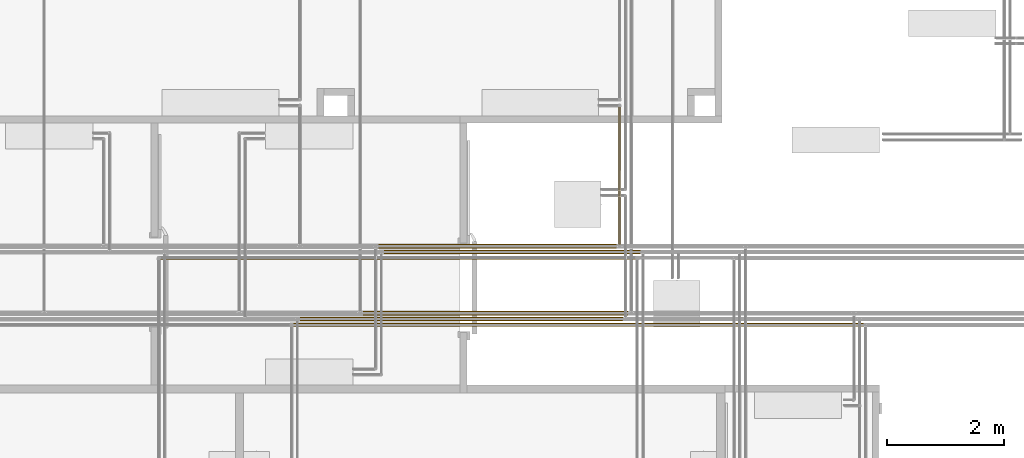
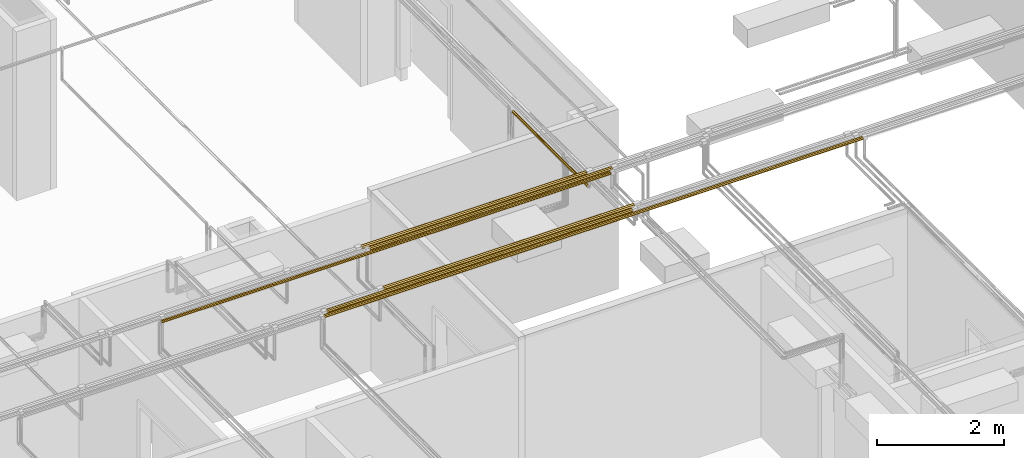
# One storey, part 94 of 652: 7 coverings.
"""IFC2X3 building model written with IfcOpenShell, lengths in millimetres."""

import ifcopenshell
import ifcopenshell.guid

model = None  # the IFC model being written
_history = None  # IfcOwnerHistory: only IFC2X3 demands one
_inside = {}  # id of a spatial element -> (the spatial element, [elements in it])
_under = {}  # id of a project, library or spatial element -> (it, [spatial elements below it])
_declared = {}  # id of a project -> (the project, [libraries it declares])
_typed = {}  # id of a type object -> (the type object, [elements of that type])
_made_of = {}  # id of a material, layer set ... -> (it, [elements and type objects made of it])


def new_model(schema):
    """Start an empty IFC model of exactly this schema.

    Asked for "IFC4X3", IfcOpenShell would pick the latest addendum, in which some entities
    have other attributes; the version numbers below select the first issue.
    IFC2X3 requires an IfcOwnerHistory on every rooted entity: one is made here for all.
    """
    global model, _history
    if schema == "IFC4X3":
        model = ifcopenshell.file(schema_version=(4, 3, 0, 0))
    else:
        model = ifcopenshell.file(schema=schema)
    _inside.clear()
    _under.clear()
    _declared.clear()
    _typed.clear()
    _made_of.clear()
    _history = None
    if model.schema == "IFC2X3":
        org = make("IfcOrganization", Name="unknown")
        user = make(
            "IfcPersonAndOrganization",
            ThePerson=make("IfcPerson", FamilyName="unknown"),
            TheOrganization=org,
        )
        app = make(
            "IfcApplication",
            ApplicationDeveloper=org,
            Version="unknown",
            ApplicationFullName="unknown",
            ApplicationIdentifier="unknown",
        )
        _history = make(
            "IfcOwnerHistory",
            OwningUser=user,
            OwningApplication=app,
            ChangeAction="ADDED",
            CreationDate=0,
        )
    return model


def make(cls, **values):
    """One entity of the class cls with the attributes given. An attribute that is None is left unset."""
    return model.create_entity(
        cls, **{name: value for name, value in values.items() if value is not None}
    )


def entity(cls, *values):
    """Any entity or typed value of the class cls, its attributes in the order of the schema. None: left unset."""
    e = model.create_entity(cls)
    for i, value in enumerate(values):
        if value is not None:
            e[i] = value
    return e


def rooted(cls, **values):
    """An entity with a GlobalId (a new one), such as an element, a storey or a relation."""
    return make(cls, GlobalId=ifcopenshell.guid.new(), OwnerHistory=_history, **values)


def si_unit(unit_type, name, prefix=None):
    """IfcSIUnit, for example si_unit("LENGTHUNIT", "METRE", prefix="MILLI")."""
    return make("IfcSIUnit", UnitType=unit_type, Prefix=prefix, Name=name)


def converted_unit(unit_type, name, factor, base, dimensions=None, offset=None):
    """IfcConversionBasedUnit, such as the inch: factor (a typed value) times the base unit."""
    return make(
        "IfcConversionBasedUnit"
        if offset is None
        else "IfcConversionBasedUnitWithOffset",
        ConversionOffset=offset,
        Dimensions=None
        if dimensions is None
        else entity("IfcDimensionalExponents", *dimensions),
        UnitType=unit_type,
        Name=name,
        ConversionFactor=make(
            "IfcMeasureWithUnit", ValueComponent=factor, UnitComponent=base
        ),
    )


def assignment(units):
    """IfcUnitAssignment: the units of a project."""
    return None if units is None else make("IfcUnitAssignment", Units=units)


def point(xyz):
    """IfcCartesianPoint."""
    return None if xyz is None else make("IfcCartesianPoint", Coordinates=xyz)


def direction(xyz):
    """IfcDirection."""
    return None if xyz is None else make("IfcDirection", DirectionRatios=xyz)


def frame(location, z_axis=None, x_axis=None):
    """IfcAxis2Placement3D, a coordinate frame: its origin and axes. An axis left out is left unset."""
    return make(
        "IfcAxis2Placement3D",
        Location=point(location),
        Axis=direction(z_axis),
        RefDirection=direction(x_axis),
    )


def origin():
    """The frame at (0, 0, 0) with its axes left unset."""
    return frame((0.0, 0.0, 0.0))


def place(relative_to, where):
    """IfcLocalPlacement: puts the frame where relative to a parent placement (None: the world)."""
    return make(
        "IfcLocalPlacement", PlacementRelTo=relative_to, RelativePlacement=where
    )


def context(
    kind, dimensions, precision=None, world=None, true_north=None, identifier=None
):
    """IfcGeometricRepresentationContext, for example the 3D "Model" context."""
    return make(
        "IfcGeometricRepresentationContext",
        ContextIdentifier=identifier,
        ContextType=kind,
        CoordinateSpaceDimension=dimensions,
        Precision=precision,
        WorldCoordinateSystem=world,
        TrueNorth=true_north,
    )


def subcontext(parent, identifier, kind, view, scale=None):
    """IfcGeometricRepresentationSubContext, for example "Body" below "Model"."""
    return make(
        "IfcGeometricRepresentationSubContext",
        ContextIdentifier=identifier,
        ContextType=kind,
        ParentContext=parent,
        TargetScale=scale,
        TargetView=view,
    )


def project(units=None, contexts=None):
    """IfcProject with its units and contexts."""
    return rooted(
        "IfcProject",
        Name="project",
        RepresentationContexts=contexts,
        UnitsInContext=assignment(units),
    )


def spatial(cls, under=None, at=None, **own):
    """A site, building, storey or space (cls), placed at a placement, below another one or the project."""
    s = rooted(cls, ObjectPlacement=at, **own)
    if under is not None:
        _under.setdefault(under.id(), (under, []))[1].append(s)
    return s


def faces_of(points, faces, orient=None, outer=None):
    """IfcFace entities. A face is a list of loops; a loop is a list of indices into points, from 0.

    orient and outer hold one flag for each loop. By default every Orientation is true, the
    first loop of a face is its IfcFaceOuterBound and the others are IfcFaceBound.
    """
    made = []
    for i, loops in enumerate(faces):
        bounds = []
        for j, loop in enumerate(loops):
            is_outer = j == 0 if outer is None else outer[i][j]
            bounds.append(
                make(
                    "IfcFaceOuterBound" if is_outer else "IfcFaceBound",
                    Bound=make("IfcPolyLoop", Polygon=[points[k] for k in loop]),
                    Orientation=True if orient is None else orient[i][j],
                )
            )
        made.append(make("IfcFace", Bounds=bounds))
    return made


def faceted_brep(points, faces, orient=None, outer=None, voids=None):
    """IfcFacetedBrep: a solid bounded by flat faces; with voids (closed shells), ...WithVoids."""
    shared = [point(p) for p in points]
    hull = make("IfcClosedShell", CfsFaces=faces_of(shared, faces, orient, outer))
    if voids is None:
        return make("IfcFacetedBrep", Outer=hull)
    return make(
        "IfcFacetedBrepWithVoids",
        Outer=hull,
        Voids=[
            make(cls, CfsFaces=faces_of(shared, fs, o, b)) for cls, fs, o, b in voids
        ],
    )


def shape(context_of_items, identifier, shape_type, items):
    """IfcShapeRepresentation: the items that make up one representation, for example the "Body"."""
    return make(
        "IfcShapeRepresentation",
        ContextOfItems=context_of_items,
        RepresentationIdentifier=identifier,
        RepresentationType=shape_type,
        Items=items,
    )


def material(Name=None, Category=None):
    """IfcMaterial."""
    return make("IfcMaterial", Name=Name, Category=Category)


def made_of(thing, what):
    """Note that an element or type object is made of a material, layer set ...; save() writes the relation."""
    if what is not None:
        _made_of.setdefault(what.id(), (what, []))[1].append(thing)
    return thing


def type_object(cls, material=None, **own):
    """A type object (cls), such as IfcWallType, which elements share."""
    return made_of(rooted(cls, **own), material)


def element(
    cls,
    number,
    at=None,
    inside=None,
    cuts=None,
    type_object=None,
    material=None,
    context=None,
    identifier="Body",
    shape_type=None,
    held_by="IfcProductDefinitionShape",
    body=None,
    shapes=None,
    **own,
):
    """One element of the class cls, such as IfcWall. Its Tag is "e" and its number.

    at: its placement. inside: the storey or other place that contains it. cuts: it is an
    opening in that element (IfcRelVoidsElement). A single representation is given by context,
    identifier, shape_type and body (its items); several are given by shapes. held_by: the class
    of the entity that holds the representations. save() writes the other relations.
    """
    e = rooted(cls, Tag="e%d" % number, ObjectPlacement=at, **own)
    if body is not None:
        shapes = [shape(context, identifier, shape_type, body)]
    if shapes is not None:
        e.Representation = make(held_by, Representations=shapes)
    if inside is not None:
        _inside.setdefault(inside.id(), (inside, []))[1].append(e)
    if cuts is not None:
        rooted(
            "IfcRelVoidsElement", RelatingBuildingElement=cuts, RelatedOpeningElement=e
        )
    if type_object is not None:
        _typed.setdefault(type_object.id(), (type_object, []))[1].append(e)
    return made_of(e, material)


def aggregate(whole, parts):
    """IfcRelAggregates: a whole, such as a stair, and the parts it consists of."""
    return rooted("IfcRelAggregates", RelatingObject=whole, RelatedObjects=parts)


def save(model, path):
    """Write the relations noted so far, then the file.

    IfcRelAggregates (storeys below a building ...), IfcRelContainedInSpatialStructure (elements
    in a storey), IfcRelDefinesByType, IfcRelAssociatesMaterial and IfcRelDeclares: one each for
    every whole, place, type object, material and project.
    """
    for whole, parts in _under.values():
        aggregate(whole, parts)
    for where, things in _inside.values():
        rooted(
            "IfcRelContainedInSpatialStructure",
            RelatedElements=things,
            RelatingStructure=where,
        )
    for kind, things in _typed.values():
        rooted("IfcRelDefinesByType", RelatedObjects=things, RelatingType=kind)
    for what, things in _made_of.values():
        rooted("IfcRelAssociatesMaterial", RelatedObjects=things, RelatingMaterial=what)
    for by, libraries in _declared.values():
        rooted("IfcRelDeclares", RelatingContext=by, RelatedDefinitions=libraries)
    model.write(path)


model = new_model("IFC2X3")

# Units and contexts
model_context = context("Model", 3, precision=0.01, world=frame((0.0, 0.0, 308426.39999999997)), true_north=direction((6.123233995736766e-17, 1.0)))
plan_context = context("Plan", 3, precision=0.01, world=frame((0.0, 0.0, 308426.39999999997)), true_north=direction((6.123233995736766e-17, 1.0)))
body_context = subcontext(model_context, "Body", "Model", "MODEL_VIEW")
ifc_project = project(units=[si_unit("LENGTHUNIT", "METRE", prefix="MILLI"), si_unit("AREAUNIT", "SQUARE_METRE"), si_unit("VOLUMEUNIT", "CUBIC_METRE"), converted_unit("PLANEANGLEUNIT", "DEGREE", entity("IfcPlaneAngleMeasure", 0.017453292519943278), si_unit("PLANEANGLEUNIT", "RADIAN"), dimensions=[0, 0, 0, 0, 0, 0, 0])], contexts=[model_context, plan_context])

# Site, building, storey
site_placement = place(None, origin())
site = spatial("IfcSite", under=ifc_project, at=site_placement, Name="Default", CompositionType="ELEMENT")
building_placement = place(site_placement, origin())
building = spatial("IfcBuilding", under=site, at=building_placement, CompositionType="ELEMENT")
storey_placement = place(building_placement, frame((0.0, 0.0, 1730.6999999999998)))
storey = spatial("IfcBuildingStorey", under=building, at=storey_placement, Name="EG_Produktion_FFB", CompositionType="ELEMENT", Elevation=1730.6999999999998)

# Coverings
ifc_material = material(Name="Dämmung - Armaflex-Schlauch")
covering_type = type_object("IfcCoveringType", Name="Rohrdämmung außen:Armaflex-Schlauch", PredefinedType="INSULATION")
covering_1_placement = place(storey_placement, frame((28134.426071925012, 59815.1172277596, 3865.11722776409)))
element("IfcCovering", 1, at=covering_1_placement, inside=storey, type_object=covering_type, material=ifc_material, Name="Rohrdämmung außen:Armaflex-Schlauch", ObjectType="Rohrdämmung außen:Armaflex-Schlauch", PredefinedType="INSULATION", context=body_context, shape_type="Brep", body=[
    faceted_brep([(5539.82617807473, 68.17027223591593, 34.88277223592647), (5539.826178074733, 65.64905719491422, 40.969523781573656), (5539.82617807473, 63.295430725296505, 46.65168072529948), (5539.826178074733, 60.8580099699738, 52.53613496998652), (5539.82617807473, 58.42058921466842, 58.42058921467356), (5539.82617807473, 52.53613496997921, 60.85800996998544), (5539.82617807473, 46.65168072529, 63.29543072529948), (5539.826178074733, 40.96952378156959, 65.64905719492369), (5539.82617807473, 34.88277223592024, 68.17027223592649), (5539.82617807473, 28.79602069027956, 65.64905719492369), (5539.82617807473, 23.11386374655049, 63.29543072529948), (5539.82617807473, 17.229409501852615, 60.85800996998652), (5539.82617807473, 11.344955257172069, 58.42058921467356), (5539.826178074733, 8.907534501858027, 52.53613496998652), (5539.82617807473, 6.470113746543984, 46.65168072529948), (5539.82617807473, 4.116487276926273, 40.969523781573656), (5539.82617807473, 1.5952722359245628, 34.88277223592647), (5539.82617807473, 4.032692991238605, 28.99831799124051), (5539.82617807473, 6.470113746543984, 23.113863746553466), (5539.82617807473, 8.907534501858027, 17.22940950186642), (5539.82617807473, 11.344955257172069, 11.344955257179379), (5539.82617807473, 17.229409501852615, 8.907534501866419), (5539.82617807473, 23.11386374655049, 6.4701137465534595), (5539.826178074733, 28.79602069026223, 4.116487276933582), (5539.82617807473, 34.88277223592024, 1.5952722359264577), (5539.82617807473, 40.96952378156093, 4.116487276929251), (5539.82617807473, 46.65168072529, 6.4701137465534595), (5539.826178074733, 52.53613496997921, 8.907534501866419), (5539.82617807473, 58.42058921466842, 11.344955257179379), (5539.826178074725, 60.85800996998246, 17.22940950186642), (5539.82617807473, 63.295430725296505, 23.113863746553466), (5539.82617807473, 65.64905719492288, 28.79602069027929), (0.0, 52.53613496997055, 8.907534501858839), (0.0, 46.65168072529, 6.470113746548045), (0.0, 40.76722648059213, 4.032692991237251), (0.0, 34.88277223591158, 1.595272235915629), (0.0, 28.796020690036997, 4.116487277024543), (0.0, 22.70926914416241, 6.637702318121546), (0.0, 17.02711220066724, 8.99132878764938), (0.0, 11.344955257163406, 11.34495525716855), (0.0, 8.907534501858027, 17.229409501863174), (0.0, 6.470113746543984, 23.11386374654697), (0.0, 4.032692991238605, 28.998317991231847), (0.0, 1.5952722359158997, 34.88277223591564), (0.0, 4.116487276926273, 40.969523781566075), (0.0, 6.63770231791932, 47.056275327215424), (0.0, 8.991328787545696, 52.73843227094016), (0.0, 11.344955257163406, 58.42058921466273), (0.0, 17.229409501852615, 60.858009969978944), (0.0, 23.113863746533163, 63.29543072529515), (0.0, 28.998317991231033, 65.73285148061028), (0.0, 34.88277223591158, 68.17027223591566), (0.0, 40.96952378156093, 65.64905719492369), (0.0, 47.05627532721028, 63.127842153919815), (0.0, 52.73843227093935, 60.774215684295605), (0.0, 58.420589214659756, 58.42058921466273), (0.0, 60.8580099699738, 52.536134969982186), (0.0, 63.295430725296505, 46.65168072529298), (0.0, 65.73285148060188, 40.76722648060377), (0.0, 68.17027223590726, 34.88277223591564), (0.0, 65.64905719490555, 28.796020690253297), (0.0, 63.12784215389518, 22.709269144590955), (0.0, 60.7742156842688, 17.027112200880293), (0.0, 58.420589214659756, 11.34495525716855)], [[[0, 1, 2, 3, 4, 5, 6, 7, 8, 9, 10, 11, 12, 13, 14, 15, 16, 17, 18, 19, 20, 21, 22, 23, 24, 25, 26, 27, 28, 29, 30, 31]], [[32, 33, 34, 35, 36, 37, 38, 39, 40, 41, 42, 43, 44, 45, 46, 47, 48, 49, 50, 51, 52, 53, 54, 55, 56, 57, 58, 59, 60, 61, 62, 63]], [[41, 40, 39, 20, 19, 18, 17, 16, 43, 42]], [[20, 39, 38, 37, 36, 35, 24, 23, 22, 21]], [[24, 35, 34, 33, 32, 63, 28, 27, 26, 25]], [[28, 63, 62, 61, 60, 59, 0, 31, 30, 29]], [[0, 59, 58, 57, 56, 55, 4, 3, 2, 1]], [[4, 55, 54, 53, 52, 51, 8, 7, 6, 5]], [[8, 51, 50, 49, 48, 47, 12, 11, 10, 9]], [[12, 47, 46, 45, 44, 43, 16, 15, 14, 13]]]),
])
covering_2_placement = place(storey_placement, frame((29575.747749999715, 60965.11722776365, 3865.117227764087)))
element("IfcCovering", 2, at=covering_2_placement, inside=storey, type_object=covering_type, material=ifc_material, Name="Rohrdämmung außen:Armaflex-Schlauch", ObjectType="Rohrdämmung außen:Armaflex-Schlauch", PredefinedType="INSULATION", context=body_context, shape_type="Brep", body=[
    faceted_brep([(4398.504500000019, 68.17027223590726, 34.88277223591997), (4398.5045000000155, 64.99485361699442, 42.54891093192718), (4398.5045000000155, 63.295430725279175, 46.65168072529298), (4398.5045000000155, 60.85800996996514, 52.53613496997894), (4398.504500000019, 58.420589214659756, 58.42058921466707), (4398.504500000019, 52.53613496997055, 60.858009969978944), (4398.504500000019, 46.65168072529, 63.29543072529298), (4398.5045000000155, 40.76722648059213, 65.73285148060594), (4398.504500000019, 34.88277223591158, 68.17027223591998), (4398.504500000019, 27.216633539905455, 64.99485361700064), (4398.504500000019, 23.113863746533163, 63.29543072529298), (4398.504500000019, 17.229409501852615, 60.858009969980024), (4398.504500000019, 11.344955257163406, 58.42058921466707), (4398.504500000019, 8.907534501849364, 52.53613496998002), (4398.504500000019, 6.470113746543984, 46.65168072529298), (4398.504500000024, 4.0326929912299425, 40.767226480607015), (4398.504500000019, 1.5952722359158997, 34.88277223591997), (4398.504500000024, 4.0326929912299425, 28.998317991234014), (4398.504500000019, 6.470113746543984, 23.11386374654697), (4398.504500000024, 8.907534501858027, 17.229409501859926), (4398.504500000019, 11.344955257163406, 11.344955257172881), (4398.504500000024, 17.229409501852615, 8.907534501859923), (4398.504500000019, 23.113863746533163, 6.4701137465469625), (4398.504500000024, 28.998317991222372, 4.032692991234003), (4398.504500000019, 34.88277223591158, 1.5952722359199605), (4398.504500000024, 42.548910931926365, 4.770690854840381), (4398.504500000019, 46.65168072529, 6.4701137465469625), (4398.5045000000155, 52.53613496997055, 8.907534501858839), (4398.504500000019, 58.420589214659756, 11.344955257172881), (4398.504500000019, 60.85800996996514, 17.229409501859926), (4398.504500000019, 63.295430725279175, 23.11386374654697), (4398.504500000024, 65.73285148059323, 28.998317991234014), (0.0, 52.53613496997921, 8.907534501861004), (0.0, 46.65168072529, 6.4701137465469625), (0.0, 40.76722648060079, 4.032692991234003), (0.0, 34.88277223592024, 1.595272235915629), (0.0, 27.216633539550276, 4.770690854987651), (0.0, 19.550494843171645, 7.946109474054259), (0.0, 11.344955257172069, 11.34495525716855), (0.0, 8.907534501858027, 17.22940950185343), (0.0, 6.470113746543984, 23.11386374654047), (0.0, 4.0326929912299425, 28.9983179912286), (0.0, 1.5952722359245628, 34.88277223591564), (0.0, 4.770690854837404, 42.548910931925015), (0.0, 7.946109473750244, 50.21504962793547), (0.0, 11.344955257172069, 58.42058921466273), (0.0, 17.229409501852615, 60.858009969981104), (0.0, 23.113863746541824, 63.29543072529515), (0.0, 28.9983179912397, 65.73285148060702), (0.0, 34.88277223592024, 68.17027223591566), (0.0, 42.548910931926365, 64.99485361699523), (0.0, 50.215049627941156, 61.819434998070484), (0.0, 58.42058921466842, 58.42058921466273), (0.0, 60.85800996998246, 52.536134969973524), (0.0, 63.295430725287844, 46.65168072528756), (0.0, 65.73285148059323, 40.7672264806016), (0.0, 68.17027223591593, 34.88277223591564), (0.0, 64.9948536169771, 27.216633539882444), (0.0, 61.81943499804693, 19.550494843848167), (0.0, 58.42058921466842, 11.34495525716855)], [[[0, 1, 2, 3, 4, 5, 6, 7, 8, 9, 10, 11, 12, 13, 14, 15, 16, 17, 18, 19, 20, 21, 22, 23, 24, 25, 26, 27, 28, 29, 30, 31]], [[32, 33, 34, 35, 36, 37, 38, 39, 40, 41, 42, 43, 44, 45, 46, 47, 48, 49, 50, 51, 52, 53, 54, 55, 56, 57, 58, 59]], [[40, 39, 38, 20, 19, 18, 17, 16, 42, 41]], [[38, 37, 36, 35, 24, 23, 22, 21, 20]], [[30, 29, 28, 59, 58, 57, 56, 0, 31]], [[27, 26, 25, 24, 35, 34, 33, 32, 59, 28]], [[6, 5, 4, 52, 51, 50, 49, 8, 7]], [[3, 2, 1, 0, 56, 55, 54, 53, 52, 4]], [[14, 13, 12, 45, 44, 43, 42, 16, 15]], [[11, 10, 9, 8, 49, 48, 47, 46, 45, 12]]]),
])
covering_3_placement = place(storey_placement, frame((29484.447249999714, 61061.942227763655, 3861.942227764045)))
element("IfcCovering", 3, at=covering_3_placement, inside=storey, type_object=covering_type, material=ifc_material, Name="Rohrdämmung außen:Armaflex-Schlauch", ObjectType="Rohrdämmung außen:Armaflex-Schlauch", PredefinedType="INSULATION", context=body_context, shape_type="Brep", body=[
    faceted_brep([(0.0, 1.5952722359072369, 38.057772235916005), (0.0, 3.5570332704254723, 42.79388233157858), (0.0, 6.935081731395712, 50.949212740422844), (0.0, 9.604986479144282, 57.39493299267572), (0.0, 12.274891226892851, 63.84065324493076), (0.0, 18.720611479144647, 66.51055799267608), (0.0, 25.16633173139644, 69.18046274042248), (0.0, 31.612051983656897, 71.85036748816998), (0.0, 38.05777223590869, 74.52027223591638), (0.0, 42.793882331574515, 72.55851120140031), (0.0, 50.94921274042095, 69.18046274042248), (0.0, 57.39493299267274, 66.51055799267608), (0.0, 63.84065324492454, 63.84065324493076), (0.0, 66.5105579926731, 57.3949329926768), (0.0, 69.18046274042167, 50.949212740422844), (0.0, 71.85036748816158, 44.50349248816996), (0.0, 74.52027223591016, 38.057772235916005), (0.0, 71.85036748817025, 31.61205198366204), (0.0, 69.18046274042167, 25.166331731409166), (0.0, 66.5105579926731, 18.720611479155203), (0.0, 63.84065324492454, 12.274891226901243), (0.0, 57.39493299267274, 9.604986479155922), (0.0, 50.94921274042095, 6.935081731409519), (0.0, 44.50349248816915, 4.265176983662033), (0.0, 38.05777223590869, 1.595272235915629), (0.0, 33.32166214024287, 3.557033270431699), (0.0, 25.16633173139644, 6.935081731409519), (0.0, 18.720611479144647, 9.604986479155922), (0.0, 12.274891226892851, 12.274891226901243), (0.0, 9.604986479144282, 18.720611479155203), (0.0, 6.935081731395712, 25.166331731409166), (0.0, 4.265176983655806, 31.61205198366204), (4081.105500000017, 18.72061147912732, 9.60498647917), (4081.105500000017, 25.16633173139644, 6.935081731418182), (4081.105500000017, 31.612051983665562, 4.265176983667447), (4081.105500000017, 38.057772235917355, 1.5952722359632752), (4081.105500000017, 47.52999242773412, 5.518794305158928), (4081.105500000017, 55.68532283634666, 8.896842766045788), (4081.105500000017, 63.8406532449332, 12.27489122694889), (4081.105500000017, 66.51055799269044, 18.720611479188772), (4081.105500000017, 69.18046274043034, 25.166331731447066), (4081.105500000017, 71.85036748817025, 31.612051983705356), (4081.105500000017, 74.52027223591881, 38.05777223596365), (4081.105500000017, 70.59675016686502, 47.529992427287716), (4081.105500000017, 67.21870170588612, 55.6853228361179), (4081.105500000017, 63.8406532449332, 63.840653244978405), (4081.105500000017, 57.39493299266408, 66.51055799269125), (4081.105500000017, 50.949212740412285, 69.18046274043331), (4081.105500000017, 44.50349248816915, 71.8503674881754), (4081.105500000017, 38.057772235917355, 74.52027223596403), (4081.105500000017, 28.58555204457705, 70.59675016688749), (4081.105500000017, 20.430221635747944, 67.21870170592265), (4081.105500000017, 12.274891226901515, 63.840653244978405), (4081.105500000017, 9.604986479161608, 57.394932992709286), (4081.105500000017, 6.935081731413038, 50.949212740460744), (4081.1055000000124, 4.265176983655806, 44.503492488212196), (4081.105500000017, 1.5952722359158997, 38.05777223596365), (4081.105500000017, 5.518794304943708, 28.58555204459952), (4081.105500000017, 8.896842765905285, 20.430221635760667), (4081.105500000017, 12.274891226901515, 12.27489122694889)], [[[0, 1, 2, 3, 4, 5, 6, 7, 8, 9, 10, 11, 12, 13, 14, 15, 16, 17, 18, 19, 20, 21, 22, 23, 24, 25, 26, 27, 28, 29, 30, 31]], [[32, 33, 34, 35, 36, 37, 38, 39, 40, 41, 42, 43, 44, 45, 46, 47, 48, 49, 50, 51, 52, 53, 54, 55, 56, 57, 58, 59]], [[40, 39, 38, 20, 19, 18, 17, 16, 42, 41]], [[36, 35, 24, 23, 22, 21, 20, 38, 37]], [[33, 32, 59, 28, 27, 26, 25, 24, 35, 34]], [[28, 59, 58, 57, 56, 0, 31, 30, 29]], [[54, 53, 52, 4, 3, 2, 1, 0, 56, 55]], [[4, 52, 51, 50, 49, 8, 7, 6, 5]], [[47, 46, 45, 12, 11, 10, 9, 8, 49, 48]], [[12, 45, 44, 43, 42, 16, 15, 14, 13]]]),
])
covering_4_placement = place(storey_placement, frame((25741.983749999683, 60871.46722776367, 3871.467227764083)))
element("IfcCovering", 4, at=covering_4_placement, inside=storey, type_object=covering_type, material=ifc_material, Name="Rohrdämmung außen:Armaflex-Schlauch", ObjectType="Rohrdämmung außen:Armaflex-Schlauch", PredefinedType="INSULATION", context=body_context, shape_type="Brep", body=[
    faceted_brep([(8149.667500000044, 9.485083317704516, 9.485083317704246), (8149.667500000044, 14.247005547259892, 7.512630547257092), (8149.667500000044, 19.008927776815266, 5.540177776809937), (8149.66750000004, 23.77085000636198, 3.567725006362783), (8149.667500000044, 28.532772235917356, 1.595272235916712), (8149.667500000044, 34.556786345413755, 4.090500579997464), (8149.667500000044, 38.056616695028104, 5.540177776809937), (8149.667500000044, 42.81853892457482, 7.512630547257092), (8149.667500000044, 47.5804611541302, 9.485083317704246), (8149.667500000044, 49.552913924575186, 14.247005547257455), (8149.667500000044, 51.525366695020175, 19.008927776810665), (8149.667500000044, 53.49781946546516, 23.770850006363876), (8149.667500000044, 55.47027223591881, 28.532772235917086), (8149.667500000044, 52.97504389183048, 34.556786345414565), (8149.667500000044, 51.525366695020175, 38.05661669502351), (8149.667500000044, 49.552913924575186, 42.818538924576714), (8149.667500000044, 47.5804611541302, 47.58046115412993), (8149.667500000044, 42.81853892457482, 49.552913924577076), (8149.667500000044, 38.05661669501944, 51.52536669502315), (8149.667500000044, 33.29469446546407, 53.49781946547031), (8149.667500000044, 28.532772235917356, 55.470272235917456), (8149.667500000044, 22.508758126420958, 52.975043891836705), (8149.667500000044, 16.484744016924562, 50.479815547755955), (8149.667500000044, 9.485083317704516, 47.58046115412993), (8149.667500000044, 7.512630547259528, 42.818538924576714), (8149.667500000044, 5.54017777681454, 38.05661669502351), (8149.667500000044, 3.567725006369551, 33.29469446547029), (8149.667500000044, 1.5952722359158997, 28.532772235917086), (8149.667500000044, 3.567725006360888, 23.770850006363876), (8149.667500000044, 5.54017777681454, 19.008927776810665), (8149.667500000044, 7.512630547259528, 14.247005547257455), (0.0, 47.580461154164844, 47.58046115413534), (0.0, 49.55291392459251, 42.818538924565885), (0.0, 51.5253666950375, 38.05661669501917), (0.0, 53.497819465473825, 33.29469446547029), (0.0, 55.470272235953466, 28.5327722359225), (0.0, 52.97504389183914, 22.508758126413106), (0.0, 50.47981554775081, 16.48474401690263), (0.0, 47.580461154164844, 9.48508331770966), (0.0, 42.81853892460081, 7.512630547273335), (0.0, 38.056616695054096, 5.540177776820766), (0.0, 33.29469446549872, 3.5677250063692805), (0.0, 28.532772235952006, 1.5952722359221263), (0.0, 22.50875812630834, 4.0905005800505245), (0.0, 16.484744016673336, 6.585728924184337), (0.0, 9.485083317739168, 9.48508331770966), (0.0, 7.512630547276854, 14.247005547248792), (0.0, 5.54017777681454, 19.008927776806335), (0.0, 3.567725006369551, 23.770850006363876), (0.0, 1.5952722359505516, 28.5327722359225), (0.0, 4.090500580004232, 34.5567863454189), (0.0, 6.585728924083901, 40.5808004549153), (0.0, 9.485083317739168, 47.58046115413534), (0.0, 14.247005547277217, 49.55291392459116), (0.0, 19.008927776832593, 51.52536669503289), (0.0, 23.77085000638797, 53.49781946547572), (0.0, 28.532772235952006, 55.47027223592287), (0.0, 34.55678634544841, 52.975043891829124), (0.0, 40.5808004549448, 50.47981554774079)], [[[0, 1, 2, 3, 4, 5, 6, 7, 8, 9, 10, 11, 12, 13, 14, 15, 16, 17, 18, 19, 20, 21, 22, 23, 24, 25, 26, 27, 28, 29, 30]], [[31, 32, 33, 34, 35, 36, 37, 38, 39, 40, 41, 42, 43, 44, 45, 46, 47, 48, 49, 50, 51, 52, 53, 54, 55, 56, 57, 58]], [[47, 46, 45, 0, 30, 29, 28, 27, 49, 48]], [[45, 44, 43, 42, 4, 3, 2, 1, 0]], [[35, 12, 11, 10, 9, 8, 38, 37, 36]], [[7, 6, 5, 4, 42, 41, 40, 39, 38, 8]], [[56, 20, 19, 18, 17, 16, 31, 58, 57]], [[15, 14, 13, 12, 35, 34, 33, 32, 31, 16]], [[23, 22, 21, 20, 56, 55, 54, 53, 52]], [[51, 50, 49, 27, 26, 25, 24, 23, 52]]]),
])
covering_5_placement = place(storey_placement, frame((28025.726571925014, 59718.29222775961, 3868.2922277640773)))
element("IfcCovering", 5, at=covering_5_placement, inside=storey, type_object=covering_type, material=ifc_material, Name="Rohrdämmung außen:Armaflex-Schlauch", ObjectType="Rohrdämmung außen:Armaflex-Schlauch", PredefinedType="INSULATION", context=body_context, shape_type="Brep", body=[
    faceted_brep([(0.0, 1.5952722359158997, 31.707772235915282), (0.0, 4.053481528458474, 37.64241444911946), (0.0, 6.005145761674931, 42.354148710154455), (0.0, 8.210082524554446, 47.677336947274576), (0.0, 10.415019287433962, 53.000525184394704), (0.0, 15.738207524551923, 55.2054619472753), (0.0, 21.061395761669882, 57.410398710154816), (0.0, 26.384583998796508, 59.615335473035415), (0.0, 31.70777223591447, 61.820272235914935), (0.0, 37.64241444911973, 59.362062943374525), (0.0, 42.35414871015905, 57.410398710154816), (0.0, 47.67733694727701, 55.2054619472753), (0.0, 53.000525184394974, 53.000525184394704), (0.0, 55.20546194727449, 47.677336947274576), (0.0, 57.410398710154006, 42.354148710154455), (0.0, 59.615335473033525, 37.03096047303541), (0.0, 61.82027223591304, 31.707772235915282), (0.0, 59.615335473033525, 26.384583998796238), (0.0, 57.410398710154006, 21.06139576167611), (0.0, 55.20546194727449, 15.738207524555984), (0.0, 53.000525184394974, 10.415019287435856), (0.0, 47.67733694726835, 8.210082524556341), (0.0, 42.35414871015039, 6.00514576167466), (0.0, 37.03096047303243, 3.8002089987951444), (0.0, 31.70777223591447, 1.595272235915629), (0.0, 25.77313002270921, 4.05348152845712), (0.0, 21.061395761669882, 6.005145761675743), (0.0, 15.738207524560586, 8.210082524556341), (0.0, 10.415019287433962, 10.415019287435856), (0.0, 8.210082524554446, 15.738207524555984), (0.0, 6.005145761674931, 21.06139576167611), (0.0, 3.8002089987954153, 26.384583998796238), (9777.225178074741, 15.738207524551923, 8.210082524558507), (9777.225178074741, 21.061395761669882, 6.005145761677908), (9777.225178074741, 26.384583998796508, 3.8002089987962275), (9777.225178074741, 31.70777223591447, 1.5952722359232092), (9777.225178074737, 37.64241444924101, 4.053481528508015), (9777.225178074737, 43.57705666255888, 6.511690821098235), (9777.225178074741, 53.000525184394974, 10.415019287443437), (9777.225178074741, 55.20546194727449, 15.738207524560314), (9777.225178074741, 57.410398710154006, 21.061395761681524), (9777.225178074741, 59.615335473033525, 26.384583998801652), (9777.225178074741, 61.82027223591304, 31.70777223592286), (9777.225178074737, 59.36206294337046, 37.64241444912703), (9777.225178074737, 56.90385365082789, 43.57705666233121), (9777.225178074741, 53.000525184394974, 53.000525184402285), (9777.225178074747, 47.67733694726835, 55.20546194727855), (9777.225178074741, 42.35414871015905, 57.41039871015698), (9777.225178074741, 37.03096047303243, 59.6153354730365), (9777.225178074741, 31.70777223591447, 61.82027223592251), (9777.225178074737, 25.77313002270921, 59.36206294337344), (9777.225178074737, 19.83848780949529, 56.90385365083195), (9777.225178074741, 10.415019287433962, 53.000525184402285), (9777.225178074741, 8.210082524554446, 47.67733694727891), (9777.225178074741, 6.005145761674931, 42.35414871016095), (9777.225178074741, 3.8002089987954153, 37.0309604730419), (9777.225178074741, 1.5952722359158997, 31.70777223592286), (9777.225178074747, 4.053481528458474, 25.773130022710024), (9777.225178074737, 6.511690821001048, 19.838487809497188), (9777.225178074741, 10.415019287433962, 10.415019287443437)], [[[0, 1, 2, 3, 4, 5, 6, 7, 8, 9, 10, 11, 12, 13, 14, 15, 16, 17, 18, 19, 20, 21, 22, 23, 24, 25, 26, 27, 28, 29, 30, 31]], [[32, 33, 34, 35, 36, 37, 38, 39, 40, 41, 42, 43, 44, 45, 46, 47, 48, 49, 50, 51, 52, 53, 54, 55, 56, 57, 58, 59]], [[40, 39, 38, 20, 19, 18, 17, 16, 42, 41]], [[38, 37, 36, 35, 24, 23, 22, 21, 20]], [[56, 0, 31, 30, 29, 28, 59, 58, 57]], [[27, 26, 25, 24, 35, 34, 33, 32, 59, 28]], [[49, 8, 7, 6, 5, 4, 52, 51, 50]], [[3, 2, 1, 0, 56, 55, 54, 53, 52, 4]], [[42, 16, 15, 14, 13, 12, 45, 44, 43]], [[11, 10, 9, 8, 49, 48, 47, 46, 45, 12]]]),
])
covering_6_placement = place(storey_placement, frame((29216.405746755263, 59911.942227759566, 3861.9422277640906)))
element("IfcCovering", 6, at=covering_6_placement, inside=storey, type_object=covering_type, material=ifc_material, Name="Rohrdämmung außen:Armaflex-Schlauch", ObjectType="Rohrdämmung außen:Armaflex-Schlauch", PredefinedType="INSULATION", context=body_context, shape_type="Brep", body=[
    faceted_brep([(0.0, 1.5952722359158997, 38.05777223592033), (0.0, 5.115120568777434, 46.55543781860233), (0.0, 6.935081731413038, 50.94921274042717), (0.0, 9.604986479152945, 57.39493299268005), (0.0, 12.274891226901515, 63.84065324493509), (0.0, 18.72061147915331, 66.51055799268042), (0.0, 25.166331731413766, 69.18046274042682), (0.0, 31.612051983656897, 71.85036748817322), (0.0, 38.057772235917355, 74.52027223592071), (0.0, 46.55543781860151, 71.00042390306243), (0.0, 50.94921274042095, 69.18046274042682), (0.0, 57.39493299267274, 66.51055799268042), (0.0, 63.8406532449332, 63.84065324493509), (0.0, 66.51055799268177, 57.39493299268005), (0.0, 69.18046274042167, 50.94921274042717), (0.0, 71.85036748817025, 44.503492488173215), (0.0, 74.52027223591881, 38.05777223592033), (0.0, 71.85036748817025, 31.612051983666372), (0.0, 69.18046274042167, 25.166331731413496), (0.0, 66.51055799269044, 18.720611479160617), (0.0, 63.8406532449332, 12.274891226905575), (0.0, 57.394932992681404, 9.604986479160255), (0.0, 50.94921274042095, 6.935081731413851), (0.0, 44.50349248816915, 4.265176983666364), (0.0, 38.057772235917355, 1.5952722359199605), (0.0, 29.5601066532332, 5.115120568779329), (0.0, 25.166331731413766, 6.935081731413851), (0.0, 18.72061147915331, 9.604986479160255), (0.0, 12.274891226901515, 12.274891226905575), (0.0, 9.604986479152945, 18.720611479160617), (0.0, 6.935081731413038, 25.166331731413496), (0.0, 4.265176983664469, 31.612051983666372), (4549.1470032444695, 18.72061147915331, 9.604986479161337), (4549.1470032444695, 25.166331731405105, 6.935081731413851), (4549.147003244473, 31.612051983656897, 4.265176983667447), (4549.1470032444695, 38.05777223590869, 1.595272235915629), (4549.1470032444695, 46.555437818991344, 5.115120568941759), (4549.147003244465, 55.05310340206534, 8.634968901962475), (4549.1470032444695, 63.84065324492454, 12.274891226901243), (4549.1470032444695, 66.5105579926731, 18.720611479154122), (4549.1470032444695, 69.18046274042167, 25.166331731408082), (4549.1470032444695, 71.85036748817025, 31.61205198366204), (4549.1470032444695, 74.52027223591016, 38.057772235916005), (4549.1470032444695, 71.00042390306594, 46.55543781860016), (4549.1470032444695, 67.48057557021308, 55.05310340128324), (4549.1470032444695, 63.84065324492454, 63.84065324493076), (4549.1470032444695, 57.394932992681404, 66.51055799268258), (4549.1470032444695, 50.94921274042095, 69.18046274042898), (4549.1470032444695, 44.50349248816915, 71.8503674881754), (4549.1470032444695, 38.05777223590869, 74.52027223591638), (4549.147003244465, 29.560106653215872, 71.00042390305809), (4549.147003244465, 21.06244107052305, 67.48057557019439), (4549.1470032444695, 12.274891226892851, 63.84065324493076), (4549.1470032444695, 9.604986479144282, 57.39493299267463), (4549.1470032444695, 6.935081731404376, 50.94921274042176), (4549.147003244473, 4.265176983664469, 44.50349248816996), (4549.1470032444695, 1.5952722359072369, 38.057772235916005), (4549.147003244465, 5.1151205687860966, 29.560106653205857), (4549.1470032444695, 8.634968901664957, 21.062441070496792), (4549.1470032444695, 12.274891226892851, 12.274891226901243)], [[[0, 1, 2, 3, 4, 5, 6, 7, 8, 9, 10, 11, 12, 13, 14, 15, 16, 17, 18, 19, 20, 21, 22, 23, 24, 25, 26, 27, 28, 29, 30, 31]], [[32, 33, 34, 35, 36, 37, 38, 39, 40, 41, 42, 43, 44, 45, 46, 47, 48, 49, 50, 51, 52, 53, 54, 55, 56, 57, 58, 59]], [[40, 39, 38, 20, 19, 18, 17, 16, 42, 41]], [[38, 37, 36, 35, 24, 23, 22, 21, 20]], [[30, 29, 28, 59, 58, 57, 56, 0, 31]], [[27, 26, 25, 24, 35, 34, 33, 32, 59, 28]], [[6, 5, 4, 52, 51, 50, 49, 8, 7]], [[3, 2, 1, 0, 56, 55, 54, 53, 52, 4]], [[14, 13, 12, 45, 44, 43, 42, 16, 15]], [[11, 10, 9, 8, 49, 48, 47, 46, 45, 12]]]),
])
covering_7_placement = place(storey_placement, frame((33593.054727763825, 61123.371727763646, 3573.054727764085)))
element("IfcCovering", 7, at=covering_7_placement, inside=storey, type_object=covering_type, material=ifc_material, Name="Rohrdämmung außen:Armaflex-Schlauch", ObjectType="Rohrdämmung außen:Armaflex-Schlauch", PredefinedType="INSULATION", context=body_context, shape_type="Brep", body=[
    faceted_brep([(13.501404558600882, 1.5952722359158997, 7.163904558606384), (17.982693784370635, 1.5952722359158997, 5.30769378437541), (22.463983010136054, 1.5952722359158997, 3.4514830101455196), (26.945272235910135, 1.5952722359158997, 1.595272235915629), (31.42656146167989, 1.5952722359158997, 3.4514830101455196), (35.90785068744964, 1.5952722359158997, 5.30769378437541), (40.38913991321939, 1.5952722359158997, 7.163904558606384), (44.870429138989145, 1.5952722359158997, 9.020115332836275), (46.7266399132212, 1.5952722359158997, 13.501404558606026), (48.582850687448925, 1.5952722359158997, 17.982693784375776), (50.43906146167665, 1.5952722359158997, 22.46398301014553), (52.295272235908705, 1.5952722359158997, 26.94527223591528), (50.530738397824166, 1.5952722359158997, 31.788956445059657), (48.7662045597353, 1.5952722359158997, 36.63264065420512), (46.35512765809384, 1.5952722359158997, 43.25109979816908), (38.845160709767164, 1.5952722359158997, 47.581686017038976), (31.335193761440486, 1.5952722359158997, 51.912272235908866), (22.555350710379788, 1.5952722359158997, 51.912272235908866), (15.04538376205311, 1.5952722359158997, 47.581686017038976), (7.535416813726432, 1.5952722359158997, 43.25109979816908), (6.050380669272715, 1.5952722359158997, 39.1746429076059), (4.565344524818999, 1.5952722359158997, 35.09818601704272), (3.080308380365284, 1.5952722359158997, 31.021729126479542), (1.5952722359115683, 1.5952722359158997, 26.94527223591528), (3.5573907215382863, 1.5952722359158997, 22.20829917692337), (5.30769378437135, 1.5952722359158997, 17.982693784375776), (7.163904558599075, 1.5952722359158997, 13.501404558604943), (9.02011533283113, 1.5952722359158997, 9.020115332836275), (1.5952722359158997, 2366.9483627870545, 26.94527223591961), (3.4514830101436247, 2366.9483627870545, 31.426561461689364), (5.30769378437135, 2366.9483627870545, 35.90785068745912), (7.1639045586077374, 2366.9483627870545, 40.38913991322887), (9.020115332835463, 2366.9483627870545, 44.87042913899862), (13.501404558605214, 2366.9483627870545, 46.72663991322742), (17.982693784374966, 2366.9483627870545, 48.58285068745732), (22.463983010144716, 2366.9483627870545, 50.43906146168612), (26.94527223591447, 2366.9483627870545, 52.29527223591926), (31.42656146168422, 2366.9483627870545, 50.43906146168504), (35.90785068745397, 2366.9483627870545, 48.58285068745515), (40.38913991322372, 2366.9483627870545, 46.726639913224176), (44.87042913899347, 2366.9483627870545, 44.87042913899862), (46.726639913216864, 2366.9483627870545, 40.38913991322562), (48.582850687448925, 2366.9483627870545, 35.90785068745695), (50.43906146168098, 2366.9483627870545, 31.42656146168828), (52.29527223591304, 2366.9483627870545, 26.94527223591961), (50.53073839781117, 2366.9483627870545, 22.10158802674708), (49.32519994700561, 2366.9483627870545, 18.792358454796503), (47.840163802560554, 2366.9483627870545, 14.71590156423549), (46.355127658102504, 2366.9483627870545, 10.639444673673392), (38.84516070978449, 2366.9483627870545, 6.30885845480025), (31.335193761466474, 2366.9483627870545, 1.978272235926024), (22.5553507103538, 2366.9483627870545, 1.978272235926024), (15.045383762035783, 2366.9483627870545, 6.308858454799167), (7.535416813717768, 2366.9483627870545, 10.63944467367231), (5.124339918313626, 2366.9483627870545, 17.257903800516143), (3.359806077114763, 2366.9483627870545, 22.10158801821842), (24.741973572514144, 2366.6612943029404, 1.691203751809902), (26.94527223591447, 2366.5653627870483, 1.595272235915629), (29.14857089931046, 2366.6612943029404, 1.691203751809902), (29.148570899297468, 1.8823407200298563, 52.199340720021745), (26.945272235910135, 1.9782722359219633, 52.29527223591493), (24.741973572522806, 1.8823407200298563, 52.199340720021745)], [[[0, 1, 2, 3, 4, 5, 6, 7, 8, 9, 10, 11, 12, 13, 14, 15, 16, 17, 18, 19, 20, 21, 22, 23, 24, 25, 26, 27]], [[28, 29, 30, 31, 32, 33, 34, 35, 36, 37, 38, 39, 40, 41, 42, 43, 44, 45, 46, 47, 48, 49, 50, 51, 52, 53, 54, 55]], [[24, 23, 55, 25]], [[56, 2, 51]], [[28, 55, 23]], [[54, 26, 25]], [[52, 51, 1]], [[54, 25, 55]], [[3, 56, 57]], [[54, 53, 26]], [[52, 1, 0, 27]], [[2, 1, 51]], [[53, 27, 26]], [[52, 27, 53]], [[2, 56, 3]], [[50, 5, 4]], [[47, 46, 9]], [[4, 58, 50]], [[5, 50, 49]], [[47, 9, 8]], [[44, 11, 10]], [[46, 10, 9]], [[8, 48, 47]], [[49, 7, 6, 5]], [[10, 46, 45, 44]], [[58, 3, 57]], [[7, 49, 48]], [[7, 48, 8]], [[3, 58, 4]], [[14, 41, 40]], [[42, 13, 12]], [[13, 42, 41]], [[11, 44, 43]], [[37, 36, 59]], [[11, 43, 12]], [[36, 60, 59]], [[43, 42, 12]], [[16, 37, 59]], [[38, 16, 15]], [[15, 40, 39, 38]], [[16, 38, 37]], [[13, 41, 14]], [[40, 15, 14]], [[35, 34, 17]], [[18, 34, 33, 32]], [[20, 30, 21]], [[36, 61, 60]], [[23, 22, 28]], [[21, 29, 22]], [[28, 22, 29]], [[30, 20, 31]], [[31, 20, 19]], [[34, 18, 17]], [[18, 32, 19]], [[61, 35, 17]], [[35, 61, 36]], [[31, 19, 32]], [[29, 21, 30]], [[61, 17, 16, 59, 60]], [[56, 51, 50, 58, 57]]]),
])

save(model, "model.ifc")
